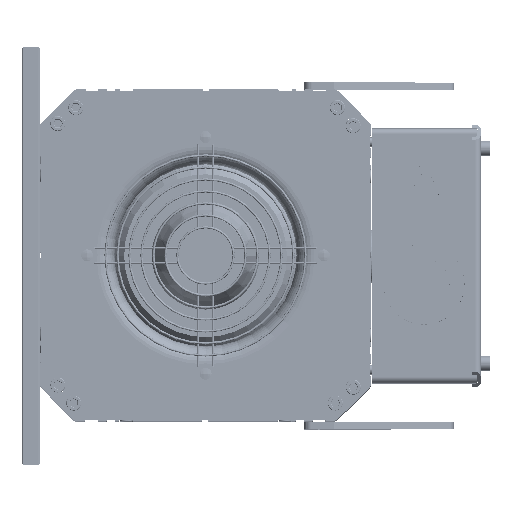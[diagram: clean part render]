
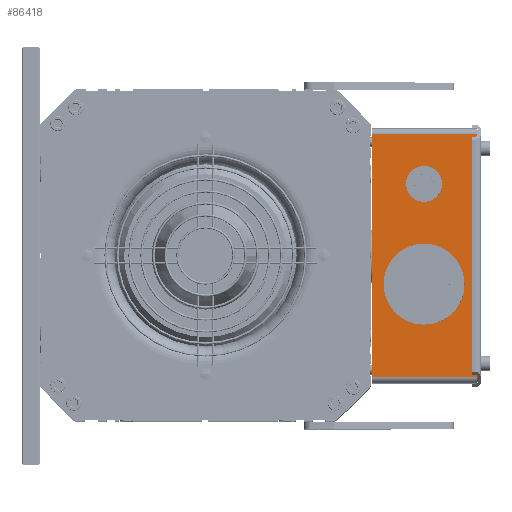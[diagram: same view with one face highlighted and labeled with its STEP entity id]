
A CAD part, top view. The second image highlights one B-rep face of the part: STEP entity #86418.
In plain terms, the highlighted planar face has unit normal (0, 0, 1) as drawn and (1, 0, 0) by its records, which use the part's own axes.
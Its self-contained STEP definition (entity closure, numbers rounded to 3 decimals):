
#83812=DIRECTION('',(0.,1.,0.));
#83813=VECTOR('',#83812,162.);
#83814=CARTESIAN_POINT('',(80.,-81.,0.));
#83815=LINE('',#83814,#83813);
#83897=DIRECTION('',(0.,0.,-1.));
#83898=VECTOR('',#83897,70.);
#83899=CARTESIAN_POINT('',(80.,-81.,70.));
#83900=LINE('',#83899,#83898);
#84417=DIRECTION('',(0.,0.,1.));
#84418=VECTOR('',#84417,70.);
#84419=CARTESIAN_POINT('',(80.,81.,0.));
#84420=LINE('',#84419,#84418);
#84425=CARTESIAN_POINT('',(80.,-48.,35.));
#84426=DIRECTION('',(1.,0.,0.));
#84427=DIRECTION('',(0.,0.,1.));
#84428=AXIS2_PLACEMENT_3D('',#84425,#84426,#84427);
#84430=CARTESIAN_POINT('',(80.,-48.,35.));
#84431=DIRECTION('',(1.,0.,0.));
#84432=DIRECTION('',(0.,0.,-1.));
#84433=AXIS2_PLACEMENT_3D('',#84430,#84431,#84432);
#84435=CARTESIAN_POINT('',(80.,19.,35.));
#84436=DIRECTION('',(1.,0.,0.));
#84437=DIRECTION('',(0.,0.,1.));
#84438=AXIS2_PLACEMENT_3D('',#84435,#84436,#84437);
#84440=CARTESIAN_POINT('',(80.,19.,35.));
#84441=DIRECTION('',(1.,0.,0.));
#84442=DIRECTION('',(0.,0.,-1.));
#84443=AXIS2_PLACEMENT_3D('',#84440,#84441,#84442);
#84445=DIRECTION('',(0.,1.,0.));
#84446=VECTOR('',#84445,162.);
#84447=CARTESIAN_POINT('',(80.,-81.,70.));
#84448=LINE('',#84447,#84446);
#85367=CARTESIAN_POINT('',(80.,-48.,43.));
#85368=CARTESIAN_POINT('',(80.,-48.,27.));
#85369=VERTEX_POINT('',#85367);
#85370=VERTEX_POINT('',#85368);
#85371=CARTESIAN_POINT('',(80.,19.,55.75));
#85372=CARTESIAN_POINT('',(80.,19.,14.25));
#85373=VERTEX_POINT('',#85371);
#85374=VERTEX_POINT('',#85372);
#85639=CARTESIAN_POINT('',(80.,-81.,0.));
#85641=VERTEX_POINT('',#85639);
#85652=CARTESIAN_POINT('',(80.,81.,0.));
#85654=VERTEX_POINT('',#85652);
#85671=CARTESIAN_POINT('',(80.,81.,70.));
#85673=VERTEX_POINT('',#85671);
#85684=CARTESIAN_POINT('',(80.,-81.,70.));
#85686=VERTEX_POINT('',#85684);
#86395=CARTESIAN_POINT('',(80.,-85.,0.));
#86396=DIRECTION('',(1.,0.,0.));
#86397=DIRECTION('',(0.,1.,0.));
#86398=AXIS2_PLACEMENT_3D('',#86395,#86396,#86397);
#86399=PLANE('',#86398);
#86400=ORIENTED_EDGE('',*,*,#86386,.F.);
#86401=ORIENTED_EDGE('',*,*,#85694,.F.);
#86402=ORIENTED_EDGE('',*,*,#85750,.F.);
#86403=ORIENTED_EDGE('',*,*,#86312,.T.);
#86404=EDGE_LOOP('',(#86400,#86401,#86402,#86403));
#86405=FACE_OUTER_BOUND('',#86404,.F.);
#86407=ORIENTED_EDGE('',*,*,#86406,.T.);
#86409=ORIENTED_EDGE('',*,*,#86408,.T.);
#86410=EDGE_LOOP('',(#86407,#86409));
#86411=FACE_BOUND('',#86410,.F.);
#86413=ORIENTED_EDGE('',*,*,#86412,.T.);
#86415=ORIENTED_EDGE('',*,*,#86414,.T.);
#86416=EDGE_LOOP('',(#86413,#86415));
#86417=FACE_BOUND('',#86416,.F.);
#86418=ADVANCED_FACE('',(#86405,#86411,#86417),#86399,.T.);
#84429=CIRCLE('',#84428,8.);
#84434=CIRCLE('',#84433,8.);
#84439=CIRCLE('',#84438,20.75);
#84444=CIRCLE('',#84443,20.75);
#85694=EDGE_CURVE('',#85641,#85654,#83815,.T.);
#85750=EDGE_CURVE('',#85686,#85641,#83900,.T.);
#86312=EDGE_CURVE('',#85686,#85673,#84448,.T.);
#86386=EDGE_CURVE('',#85654,#85673,#84420,.T.);
#86406=EDGE_CURVE('',#85373,#85374,#84439,.T.);
#86408=EDGE_CURVE('',#85374,#85373,#84444,.T.);
#86412=EDGE_CURVE('',#85369,#85370,#84429,.T.);
#86414=EDGE_CURVE('',#85370,#85369,#84434,.T.);
